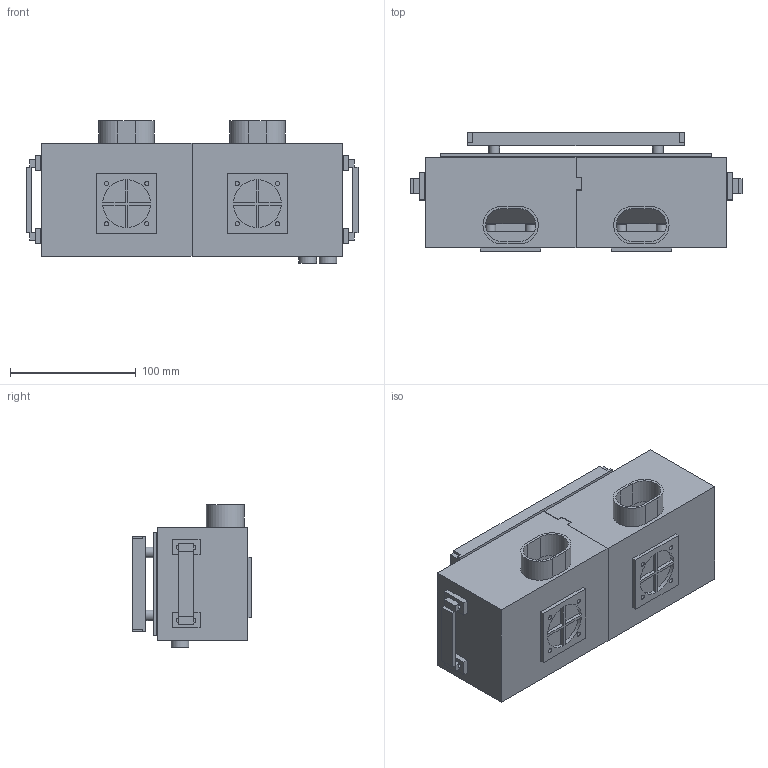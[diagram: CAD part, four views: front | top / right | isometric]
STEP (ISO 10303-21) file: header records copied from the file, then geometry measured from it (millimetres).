
FILE_DESCRIPTION(('Open CASCADE Model'),'2;1');
FILE_NAME('Open CASCADE Shape Model','2026-08-16T15:13:29',('Author'),( 'Open CASCADE'),'Open CASCADE STEP processor 7.9','Open CASCADE 7.9' ,'Unknown');
FILE_SCHEMA(('AUTOMOTIVE_DESIGN { 1 0 10303 214 1 1 1 1 }'));
Length unit declared in the file: millimetre
Products named in the file (17): HeatSentry_V7_TRUE_FINAL_ASSEMBLY; LeftShell; RightShell; ServiceCover; BatteryCradle; ESPSled; BeltLoopL; BeltLoopR; FanGrilleL; FanGrilleR; CenterBridge1; PCMCarrier; REF_FAN_LEFT_40x40x10p3; REF_FAN_RIGHT_40x40x10p3; REF_POWERBANK_140x70x15; REF_ESP_30x55x25; REF_PCM_160x64x8
Assembly tree (17 placements, depth 2):
  HeatSentry_V7_TRUE_FINAL_ASSEMBLY
    LeftShell
    RightShell
    ServiceCover
    BatteryCradle
    ESPSled
    BeltLoopL
    BeltLoopR
    FanGrilleL
    FanGrilleR
    CenterBridge1  x2
    PCMCarrier
    REF_FAN_LEFT_40x40x10p3
    REF_FAN_RIGHT_40x40x10p3
    REF_POWERBANK_140x70x15
    REF_ESP_30x55x25
    REF_PCM_160x64x8
Bounding box: 264 x 94.8 x 113.5 mm (x, y, z)
Volume: 695624.2 mm3; surface area: 404144 mm2
Topology: 17 solids, 17 shells, 705 faces, 1816 edges, 1208 vertices
Faces by surface type: plane 537, cylinder 168
Full cylindrical faces by diameter (mm): 2 x4, 2.7 x4, 3.5 x38, 4.2 x38, 6.2 x4, 8.2 x18, 8.4 x8, 8.5 x2, 8.6 x4, 8.8 x16, 9.2 x10, 14 x4, 37 x2
Entity records: 44252 total; most frequent: CARTESIAN_POINT 8310, DIRECTION 6270, LINE 3599, VECTOR 3599, ORIENTED_EDGE 3596, PCURVE 3596, DEFINITIONAL_REPRESENTATION 3596, EDGE_CURVE 1798
